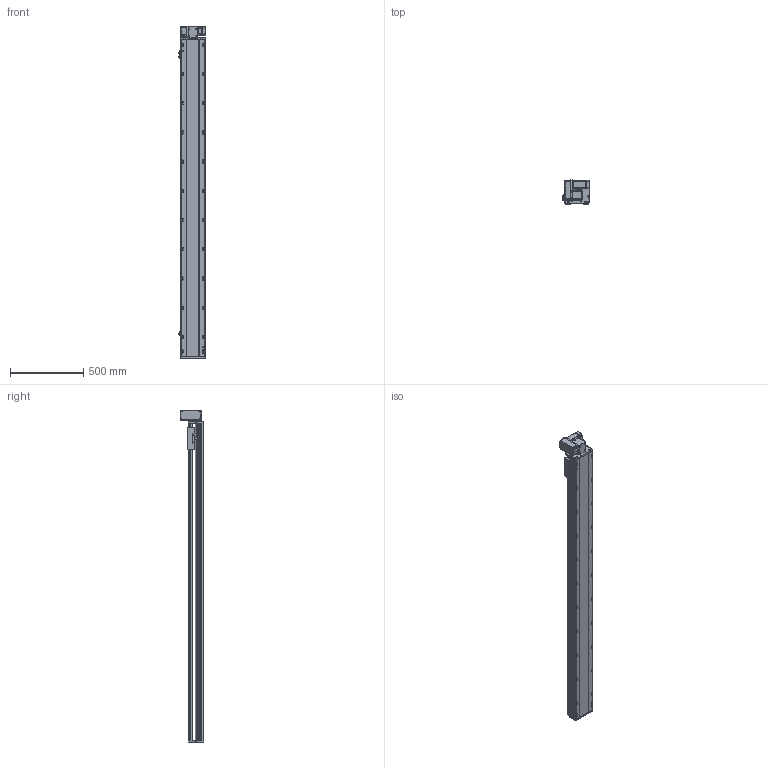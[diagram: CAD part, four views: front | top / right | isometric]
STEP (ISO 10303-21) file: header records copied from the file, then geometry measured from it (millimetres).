
FILE_DESCRIPTION (( 'STEP AP214' ), '1' );
FILE_NAME ('RTB17S-XX-1900-LW-M40-C4.STEP', '2025-12-11T07:11:51', ( '' ), ( '' ), 'SwSTEP 2.0', 'SolidWorks 2018', '' );
FILE_SCHEMA (( 'AUTOMOTIVE_DESIGN' ));
Length unit declared in the file: millimetre
Products named in the file (14): RTB17S-L-004佪裝蹟譫蟀諉釱^RTB17S-XX-XX-LW-M40-C4; RTB14-L-017P^RTB17S-LW-々湍釱蚾饜-400W_RTB17S-XX-XX-LW-M40-C4; OMRON EE-SX672 传感器^RTB17S-XX-XX-LW-M40-C4; RTB17S-L-001耜醱啣^RTB17S-XX-XX-LW-M40-C4; RTB17S-XX-1900-LW-M40-C4; RTB17S-L-014-T20--々湍釱^RTB17S-LW-々湍釱蚾饜-400W_RTB17S-XX-XX-LW-M40-C4; RTB14-L-005P--轴承塑胶压盖^RTB17S-LW-皮带座装配-400W_RTB17S-XX-XX-LW-M40-C4; RTB17-R-011菁釱^RTB17S-XX-XX-LW-M40-C4; RTB17S-LW-々湍釱蚾饜-400W^RTB17S-XX-XX-LW-M40-C4; RTB14-L-018P^RTB17S-LW-々湍釱蚾饜-400W_RTB17S-XX-XX-LW-M40-C4; RTB17S-L-007奻裔^RTB17S-XX-XX-LW-M40-C4; RTB14-L-008-M20--萇儂啣^RTB17S-LW-々湍釱蚾饜-400W_RTB17S-XX-XX-LW-M40-C4; RTH13-BL-012覜茼え俋离^RTB17S-XX-XX-LW-M40-C4; 400W侜督萇儂^RTB17S-XX-XX-LW-M40-C4
Assembly tree (16 placements, depth 3):
  RTB17S-XX-1900-LW-M40-C4
    RTB17-R-011菁釱^RTB17S-XX-XX-LW-M40-C4
    RTB17S-L-007奻裔^RTB17S-XX-XX-LW-M40-C4
    OMRON EE-SX672 传感器^RTB17S-XX-XX-LW-M40-C4  x3
    RTB17S-L-001耜醱啣^RTB17S-XX-XX-LW-M40-C4
    400W侜督萇儂^RTB17S-XX-XX-LW-M40-C4
    RTB17S-L-004佪裝蹟譫蟀諉釱^RTB17S-XX-XX-LW-M40-C4
    RTH13-BL-012覜茼え俋离^RTB17S-XX-XX-LW-M40-C4
    RTB17S-LW-々湍釱蚾饜-400W^RTB17S-XX-XX-LW-M40-C4
      RTB17S-L-014-T20--々湍釱^RTB17S-LW-々湍釱蚾饜-400W_RTB17S-XX-XX-LW-M40-C4
      RTB14-L-005P--轴承塑胶压盖^RTB17S-LW-皮带座装配-400W_RTB17S-XX-XX-LW-M40-C4
      RTB14-L-008-M20--萇儂啣^RTB17S-LW-々湍釱蚾饜-400W_RTB17S-XX-XX-LW-M40-C4
      RTB14-L-017P^RTB17S-LW-々湍釱蚾饜-400W_RTB17S-XX-XX-LW-M40-C4  x2
      RTB14-L-018P^RTB17S-LW-々湍釱蚾饜-400W_RTB17S-XX-XX-LW-M40-C4
Bounding box: 186 x 160.5 x 2272.5 mm (x, y, z)
Volume: 19711159.2 mm3; surface area: 2299326.4 mm2
Topology: 15 solids, 15 shells, 2285 faces, 6357 edges, 4149 vertices
Faces by surface type: plane 1078, cylinder 759, bspline 301, cone 139, torus 8
Entity records: 66473 total; most frequent: CARTESIAN_POINT 18762, ORIENTED_EDGE 9558, DIRECTION 8846, EDGE_CURVE 4779, VERTEX_POINT 3137, AXIS2_PLACEMENT_3D 3067, VECTOR 2712, LINE 2712
